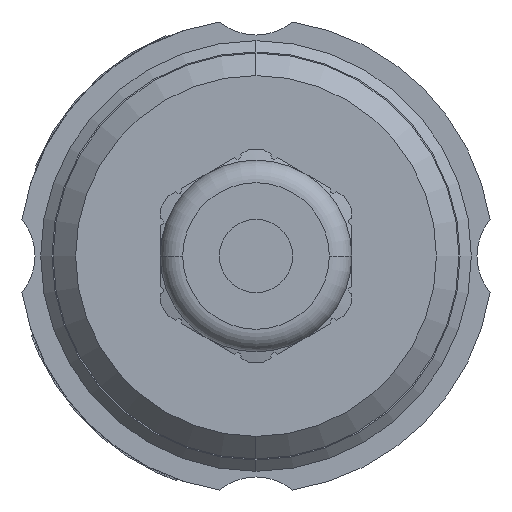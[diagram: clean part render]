
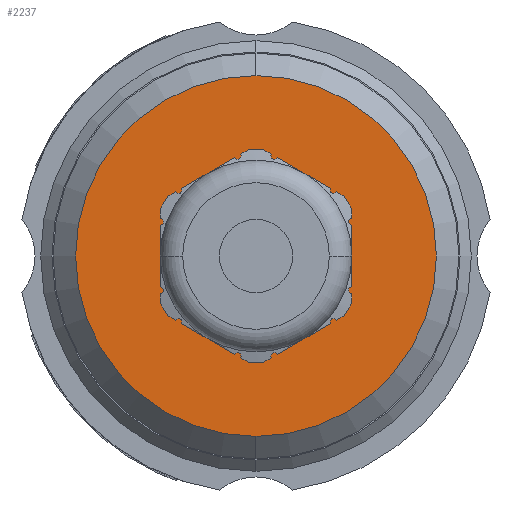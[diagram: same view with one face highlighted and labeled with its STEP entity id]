
A CAD part, left-side view. The second image highlights one B-rep face of the part: STEP entity #2237.
In plain terms, the highlighted planar face has unit normal (-1, 0, 0).
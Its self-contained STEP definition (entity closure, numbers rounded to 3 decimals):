
#243=CARTESIAN_POINT('',(-119.5,0.,0.));
#244=DIRECTION('',(-1.,0.,0.));
#245=DIRECTION('',(0.,-1.,0.));
#246=AXIS2_PLACEMENT_3D('',#243,#244,#245);
#253=CARTESIAN_POINT('',(-119.5,0.,0.));
#254=DIRECTION('',(-1.,0.,0.));
#255=DIRECTION('',(0.,0.,1.));
#256=AXIS2_PLACEMENT_3D('',#253,#254,#255);
#331=CARTESIAN_POINT('',(-119.5,0.,0.));
#332=DIRECTION('',(1.,0.,0.));
#333=DIRECTION('',(0.,0.,1.));
#334=AXIS2_PLACEMENT_3D('',#331,#332,#333);
#918=CARTESIAN_POINT('',(-119.5,0.,0.));
#919=DIRECTION('',(-1.,0.,0.));
#920=DIRECTION('',(0.,1.,0.));
#921=AXIS2_PLACEMENT_3D('',#918,#919,#920);
#1859=CARTESIAN_POINT('',(-119.5,0.,16.));
#1860=CARTESIAN_POINT('',(-119.5,0.,-16.));
#1861=VERTEX_POINT('',#1859);
#1862=VERTEX_POINT('',#1860);
#2045=CARTESIAN_POINT('',(-119.5,-8.5,0.));
#2046=CARTESIAN_POINT('',(-119.5,8.5,0.));
#2047=VERTEX_POINT('',#2045);
#2048=VERTEX_POINT('',#2046);
#2221=CARTESIAN_POINT('',(-119.5,0.,0.));
#2222=DIRECTION('',(-1.,0.,0.));
#2223=DIRECTION('',(0.,0.,-1.));
#2224=AXIS2_PLACEMENT_3D('',#2221,#2222,#2223);
#2225=PLANE('',#2224);
#2227=ORIENTED_EDGE('',*,*,#2226,.F.);
#2229=ORIENTED_EDGE('',*,*,#2228,.T.);
#2230=EDGE_LOOP('',(#2227,#2229));
#2231=FACE_OUTER_BOUND('',#2230,.F.);
#2232=ORIENTED_EDGE('',*,*,#2208,.T.);
#2234=ORIENTED_EDGE('',*,*,#2233,.T.);
#2235=EDGE_LOOP('',(#2232,#2234));
#2236=FACE_BOUND('',#2235,.F.);
#2237=ADVANCED_FACE('',(#2231,#2236),#2225,.T.);
#247=CIRCLE('',#246,8.5);
#257=CIRCLE('',#256,16.);
#335=CIRCLE('',#334,16.);
#922=CIRCLE('',#921,8.5);
#2208=EDGE_CURVE('',#2047,#2048,#247,.T.);
#2226=EDGE_CURVE('',#1861,#1862,#257,.T.);
#2228=EDGE_CURVE('',#1861,#1862,#335,.T.);
#2233=EDGE_CURVE('',#2048,#2047,#922,.T.);
